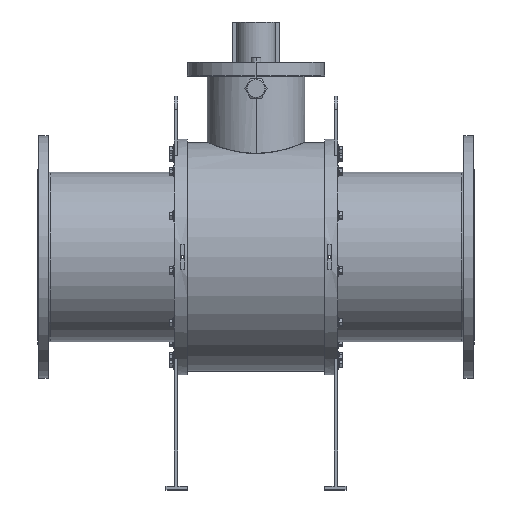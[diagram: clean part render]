
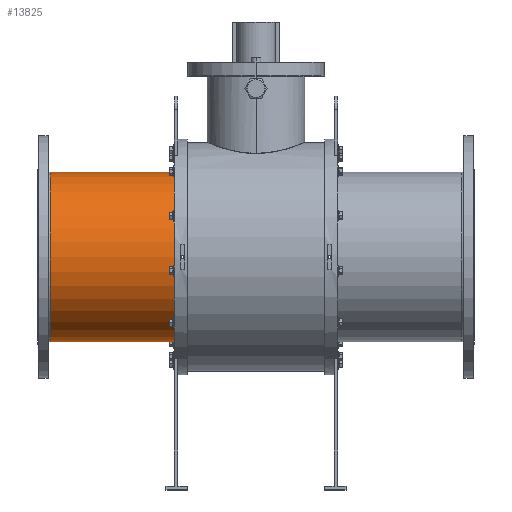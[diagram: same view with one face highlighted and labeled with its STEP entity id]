
A CAD part, top view. The second image highlights one B-rep face of the part: STEP entity #13825.
In plain terms, the highlighted cylindrical face has radius 256.55 mm (diameter 513.1 mm), a partial arc.
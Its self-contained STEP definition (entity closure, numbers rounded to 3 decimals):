
#728 = DIRECTION ( 'NONE',  ( 1., 0., 0. ) ) ;
#754 = CARTESIAN_POINT ( 'NONE',  ( -623.5, -256.55, 0. ) ) ;
#813 = ORIENTED_EDGE ( 'NONE', *, *, #10427, .T. ) ;
#943 = CARTESIAN_POINT ( 'NONE',  ( -660.5, 256.55, 0. ) ) ;
#1559 = CYLINDRICAL_SURFACE ( 'NONE', #8371, 256.55 ) ;
#2022 = ORIENTED_EDGE ( 'NONE', *, *, #13923, .F. ) ;
#2907 = DIRECTION ( 'NONE',  ( -1., 0., 0. ) ) ;
#3394 = EDGE_CURVE ( 'NONE', #13866, #7387, #11666, .T. ) ;
#3841 = VECTOR ( 'NONE', #2907, 1000. ) ;
#4888 = CARTESIAN_POINT ( 'NONE',  ( -660.5, 0., 0. ) ) ;
#5105 = CARTESIAN_POINT ( 'NONE',  ( -247.5, 256.55, 0. ) ) ;
#5123 = AXIS2_PLACEMENT_3D ( 'NONE', #9027, #11609, #9155 ) ;
#6331 = DIRECTION ( 'NONE',  ( 0., -1., 0. ) ) ;
#6810 = EDGE_LOOP ( 'NONE', ( #813, #11827, #10448, #2022 ) ) ;
#6967 = AXIS2_PLACEMENT_3D ( 'NONE', #7265, #728, #6331 ) ;
#7265 = CARTESIAN_POINT ( 'NONE',  ( -623.5, 0., 0. ) ) ;
#7387 = VERTEX_POINT ( 'NONE', #12856 ) ;
#8204 = CARTESIAN_POINT ( 'NONE',  ( -660.5, -256.55, 0. ) ) ;
#8301 = FACE_OUTER_BOUND ( 'NONE', #6810, .T. ) ;
#8371 = AXIS2_PLACEMENT_3D ( 'NONE', #4888, #11277, #11419 ) ;
#8544 = CIRCLE ( 'NONE', #6967, 256.55 ) ;
#8597 = EDGE_CURVE ( 'NONE', #7387, #14032, #8544, .T. ) ;
#9027 = CARTESIAN_POINT ( 'NONE',  ( -247.5, 0., 0. ) ) ;
#9155 = DIRECTION ( 'NONE',  ( 0., 0., 1. ) ) ;
#9663 = CARTESIAN_POINT ( 'NONE',  ( -247.5, -256.55, 0. ) ) ;
#10427 = EDGE_CURVE ( 'NONE', #10658, #13866, #13286, .T. ) ;
#10448 = ORIENTED_EDGE ( 'NONE', *, *, #8597, .T. ) ;
#10658 = VERTEX_POINT ( 'NONE', #9663 ) ;
#11277 = DIRECTION ( 'NONE',  ( -1., 0., 0. ) ) ;
#11419 = DIRECTION ( 'NONE',  ( 0., -1., 0. ) ) ;
#11609 = DIRECTION ( 'NONE',  ( -1., 0., 0. ) ) ;
#11666 = LINE ( 'NONE', #943, #12198 ) ;
#11827 = ORIENTED_EDGE ( 'NONE', *, *, #3394, .T. ) ;
#12198 = VECTOR ( 'NONE', #13864, 1000. ) ;
#12551 = LINE ( 'NONE', #8204, #3841 ) ;
#12856 = CARTESIAN_POINT ( 'NONE',  ( -623.5, 256.55, 0. ) ) ;
#13286 = CIRCLE ( 'NONE', #5123, 256.55 ) ;
#13825 = ADVANCED_FACE ( 'NONE', ( #8301 ), #1559, .T. ) ;
#13864 = DIRECTION ( 'NONE',  ( -1., 0., 0. ) ) ;
#13866 = VERTEX_POINT ( 'NONE', #5105 ) ;
#13923 = EDGE_CURVE ( 'NONE', #10658, #14032, #12551, .T. ) ;
#14032 = VERTEX_POINT ( 'NONE', #754 ) ;
